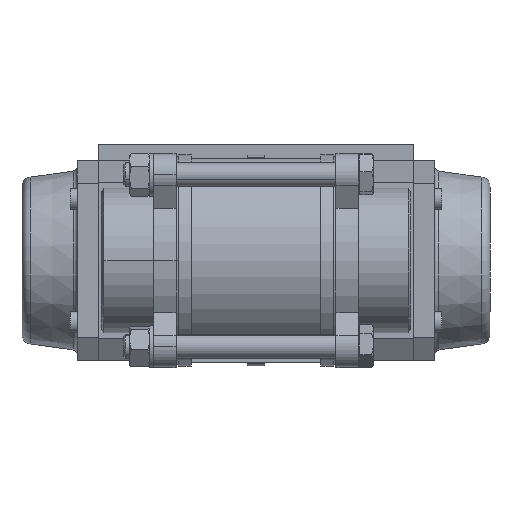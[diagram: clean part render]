
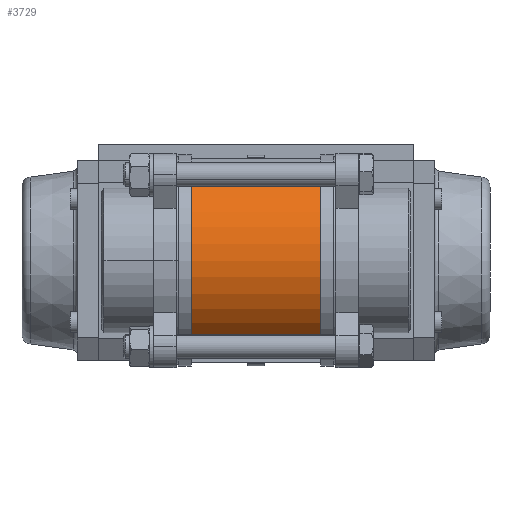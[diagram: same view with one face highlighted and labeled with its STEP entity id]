
A CAD part, front view. The second image highlights one B-rep face of the part: STEP entity #3729.
In plain terms, the highlighted cylindrical face has radius 43 mm (diameter 86 mm), a partial arc.
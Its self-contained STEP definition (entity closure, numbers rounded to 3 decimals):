
#3729 = ADVANCED_FACE ( 'NONE', ( #11077 ), #11076, .T. ) ;
#4114 = ORIENTED_EDGE ( 'NONE', *, *, #8618, .F. ) ;
#4115 = ORIENTED_EDGE ( 'NONE', *, *, #8619, .T. ) ;
#4116 = ORIENTED_EDGE ( 'NONE', *, *, #8620, .F. ) ;
#4117 = ORIENTED_EDGE ( 'NONE', *, *, #8621, .T. ) ;
#4567 = EDGE_LOOP ( 'NONE', ( #4114, #4115, #4116, #4117 ) ) ;
#6833 = LINE ( 'NONE', #6840, #9064 ) ;
#6838 = CARTESIAN_POINT ( 'NONE',  ( -33., -10., 41.821 ) ) ;
#6840 = CARTESIAN_POINT ( 'NONE',  ( -33., -10., -41.821 ) ) ;
#6841 = DIRECTION ( 'NONE',  ( -1., 0., 0. ) ) ;
#6843 = LINE ( 'NONE', #6838, #9063 ) ;
#6844 = CARTESIAN_POINT ( 'NONE',  ( 27.5, 0., 0. ) ) ;
#6845 = DIRECTION ( 'NONE',  ( -1., 0., 0. ) ) ;
#6846 = DIRECTION ( 'NONE',  ( 0., 0., -1. ) ) ;
#6847 = DIRECTION ( 'NONE',  ( 1., 0., 0. ) ) ;
#6849 = CARTESIAN_POINT ( 'NONE',  ( -27.5, 0., 0. ) ) ;
#6850 = DIRECTION ( 'NONE',  ( 1., 0., 0. ) ) ;
#6851 = DIRECTION ( 'NONE',  ( 0., 0., 1. ) ) ;
#8418 = AXIS2_PLACEMENT_3D ( 'NONE', #11078, #11074, #11080 ) ;
#8618 = EDGE_CURVE ( 'NONE', #12109, #12071, #6833, .T. ) ;
#8619 = EDGE_CURVE ( 'NONE', #12109, #12152, #9061, .T. ) ;
#8620 = EDGE_CURVE ( 'NONE', #12076, #12152, #6843, .T. ) ;
#8621 = EDGE_CURVE ( 'NONE', #12076, #12071, #9060, .T. ) ;
#9056 = AXIS2_PLACEMENT_3D ( 'NONE', #6849, #6850, #6851 ) ;
#9059 = AXIS2_PLACEMENT_3D ( 'NONE', #6844, #6845, #6846 ) ;
#9060 = CIRCLE ( 'NONE', #9056, 43. ) ;
#9061 = CIRCLE ( 'NONE', #9059, 43. ) ;
#9063 = VECTOR ( 'NONE', #6847, 1000. ) ;
#9064 = VECTOR ( 'NONE', #6841, 1000. ) ;
#11074 = DIRECTION ( 'NONE',  ( 1., 0., 0. ) ) ;
#11076 = CYLINDRICAL_SURFACE ( 'NONE', #8418, 43. ) ;
#11077 = FACE_OUTER_BOUND ( 'NONE', #4567, .T. ) ;
#11078 = CARTESIAN_POINT ( 'NONE',  ( -33., 0., 0. ) ) ;
#11080 = DIRECTION ( 'NONE',  ( 0., 0., -1. ) ) ;
#12071 = VERTEX_POINT ( 'NONE', #12625 ) ;
#12076 = VERTEX_POINT ( 'NONE', #12630 ) ;
#12109 = VERTEX_POINT ( 'NONE', #12663 ) ;
#12152 = VERTEX_POINT ( 'NONE', #12706 ) ;
#12625 = CARTESIAN_POINT ( 'NONE',  ( -27.5, -10., -41.821 ) ) ;
#12630 = CARTESIAN_POINT ( 'NONE',  ( -27.5, -10., 41.821 ) ) ;
#12663 = CARTESIAN_POINT ( 'NONE',  ( 27.5, -10., -41.821 ) ) ;
#12706 = CARTESIAN_POINT ( 'NONE',  ( 27.5, -10., 41.821 ) ) ;
